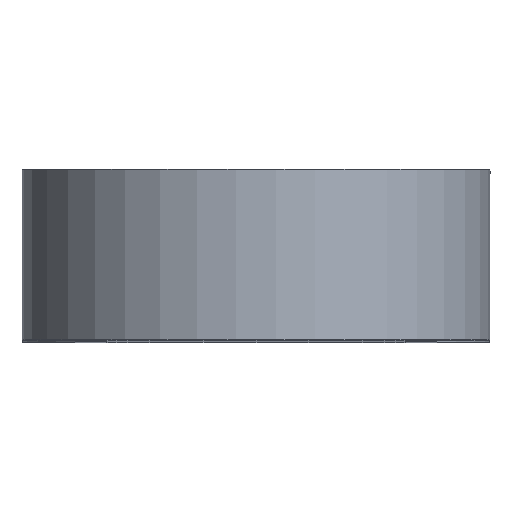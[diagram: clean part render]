
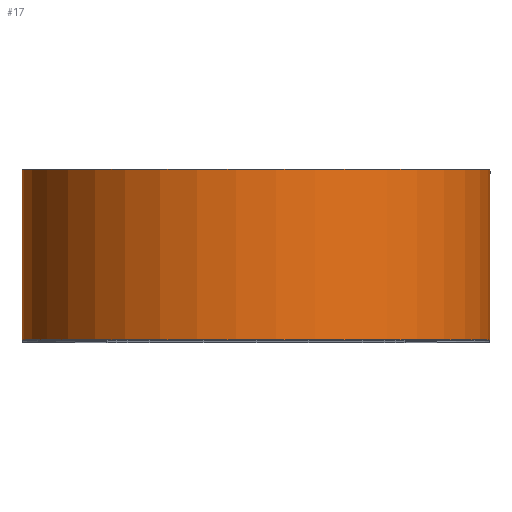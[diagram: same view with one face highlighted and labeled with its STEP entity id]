
A CAD part, top view. The second image highlights one B-rep face of the part: STEP entity #17.
In plain terms, the highlighted cylindrical face has radius 5.5 mm (diameter 11 mm), a partial arc.
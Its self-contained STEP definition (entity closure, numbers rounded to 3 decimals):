
#17 = ADVANCED_FACE('',(#18),#33,.T.);
#18 = FACE_BOUND('',#19,.F.);
#19 = EDGE_LOOP('',(#20,#56,#82,#115));
#20 = ORIENTED_EDGE('',*,*,#21,.F.);
#21 = EDGE_CURVE('',#22,#24,#26,.T.);
#22 = VERTEX_POINT('',#23);
#23 = CARTESIAN_POINT('',(-3.5,-9.,-4.243));
#24 = VERTEX_POINT('',#25);
#25 = CARTESIAN_POINT('',(3.5,-9.,-4.243));
#26 = SURFACE_CURVE('',#27,(#32,#44),.PCURVE_S1.);
#27 = CIRCLE('',#28,5.5);
#28 = AXIS2_PLACEMENT_3D('',#29,#30,#31);
#29 = CARTESIAN_POINT('',(0.,-9.,0.));
#30 = DIRECTION('',(0.,1.,0.));
#31 = DIRECTION('',(-0.636,0.,-0.771));
#32 = PCURVE('',#33,#38);
#33 = CYLINDRICAL_SURFACE('',#34,5.5);
#34 = AXIS2_PLACEMENT_3D('',#35,#36,#37);
#35 = CARTESIAN_POINT('',(0.,-9.,0.));
#36 = DIRECTION('',(0.,-1.,-0.));
#37 = DIRECTION('',(1.,0.,0.));
#38 = DEFINITIONAL_REPRESENTATION('',(#39),#43);
#39 = LINE('',#40,#41);
#40 = CARTESIAN_POINT('',(-2.261,0.));
#41 = VECTOR('',#42,1.);
#42 = DIRECTION('',(-1.,0.));
#43 = ( GEOMETRIC_REPRESENTATION_CONTEXT(2) 
PARAMETRIC_REPRESENTATION_CONTEXT() REPRESENTATION_CONTEXT('2D SPACE',''
  ) );
#44 = PCURVE('',#45,#50);
#45 = PLANE('',#46);
#46 = AXIS2_PLACEMENT_3D('',#47,#48,#49);
#47 = CARTESIAN_POINT('',(0.,-9.,0.));
#48 = DIRECTION('',(0.,1.,0.));
#49 = DIRECTION('',(0.,-0.,1.));
#50 = DEFINITIONAL_REPRESENTATION('',(#51),#55);
#51 = CIRCLE('',#52,5.5);
#52 = AXIS2_PLACEMENT_2D('',#53,#54);
#53 = CARTESIAN_POINT('',(0.,0.));
#54 = DIRECTION('',(-0.771,-0.636));
#55 = ( GEOMETRIC_REPRESENTATION_CONTEXT(2) 
PARAMETRIC_REPRESENTATION_CONTEXT() REPRESENTATION_CONTEXT('2D SPACE',''
  ) );
#56 = ORIENTED_EDGE('',*,*,#57,.F.);
#57 = EDGE_CURVE('',#58,#22,#60,.T.);
#58 = VERTEX_POINT('',#59);
#59 = CARTESIAN_POINT('',(-3.5,-5.,-4.243));
#60 = SURFACE_CURVE('',#61,(#65,#71),.PCURVE_S1.);
#61 = LINE('',#62,#63);
#62 = CARTESIAN_POINT('',(-3.5,-9.,-4.243));
#63 = VECTOR('',#64,1.);
#64 = DIRECTION('',(0.,-1.,-0.));
#65 = PCURVE('',#33,#66);
#66 = DEFINITIONAL_REPRESENTATION('',(#67),#70);
#67 = B_SPLINE_CURVE_WITH_KNOTS('',1,(#68,#69),.UNSPECIFIED.,.F.,.F.,(2,
    2),(-4.,0.),.PIECEWISE_BEZIER_KNOTS.);
#68 = CARTESIAN_POINT('',(-2.261,-4.));
#69 = CARTESIAN_POINT('',(-2.261,0.));
#70 = ( GEOMETRIC_REPRESENTATION_CONTEXT(2) 
PARAMETRIC_REPRESENTATION_CONTEXT() REPRESENTATION_CONTEXT('2D SPACE',''
  ) );
#71 = PCURVE('',#72,#77);
#72 = PLANE('',#73);
#73 = AXIS2_PLACEMENT_3D('',#74,#75,#76);
#74 = CARTESIAN_POINT('',(-3.5,-9.,-30.));
#75 = DIRECTION('',(1.,0.,0.));
#76 = DIRECTION('',(0.,0.,1.));
#77 = DEFINITIONAL_REPRESENTATION('',(#78),#81);
#78 = B_SPLINE_CURVE_WITH_KNOTS('',1,(#79,#80),.UNSPECIFIED.,.F.,.F.,(2,
    2),(-4.,0.),.PIECEWISE_BEZIER_KNOTS.);
#79 = CARTESIAN_POINT('',(25.757,-4.));
#80 = CARTESIAN_POINT('',(25.757,0.));
#81 = ( GEOMETRIC_REPRESENTATION_CONTEXT(2) 
PARAMETRIC_REPRESENTATION_CONTEXT() REPRESENTATION_CONTEXT('2D SPACE',''
  ) );
#82 = ORIENTED_EDGE('',*,*,#83,.F.);
#83 = EDGE_CURVE('',#84,#58,#86,.T.);
#84 = VERTEX_POINT('',#85);
#85 = CARTESIAN_POINT('',(3.5,-5.,-4.243));
#86 = SURFACE_CURVE('',#87,(#92,#99),.PCURVE_S1.);
#87 = CIRCLE('',#88,5.5);
#88 = AXIS2_PLACEMENT_3D('',#89,#90,#91);
#89 = CARTESIAN_POINT('',(0.,-5.,0.));
#90 = DIRECTION('',(0.,-1.,0.));
#91 = DIRECTION('',(0.636,0.,-0.771));
#92 = PCURVE('',#33,#93);
#93 = DEFINITIONAL_REPRESENTATION('',(#94),#98);
#94 = LINE('',#95,#96);
#95 = CARTESIAN_POINT('',(-7.164,-4.));
#96 = VECTOR('',#97,1.);
#97 = DIRECTION('',(1.,-0.));
#98 = ( GEOMETRIC_REPRESENTATION_CONTEXT(2) 
PARAMETRIC_REPRESENTATION_CONTEXT() REPRESENTATION_CONTEXT('2D SPACE',''
  ) );
#99 = PCURVE('',#100,#105);
#100 = PLANE('',#101);
#101 = AXIS2_PLACEMENT_3D('',#102,#103,#104);
#102 = CARTESIAN_POINT('',(0.,-5.,0.));
#103 = DIRECTION('',(0.,1.,0.));
#104 = DIRECTION('',(0.,-0.,1.));
#105 = DEFINITIONAL_REPRESENTATION('',(#106),#114);
#106 = ( BOUNDED_CURVE() B_SPLINE_CURVE(2,(#107,#108,#109,#110,#111,#112
,#113),.UNSPECIFIED.,.T.,.F.) B_SPLINE_CURVE_WITH_KNOTS((1,2,2,2,2,1),(
    -2.094,0.,2.094,4.189,6.283,
8.378),.UNSPECIFIED.) CURVE() GEOMETRIC_REPRESENTATION_ITEM() 
RATIONAL_B_SPLINE_CURVE((1.,0.5,1.,0.5,1.,0.5,1.)) REPRESENTATION_ITEM(
  '') );
#107 = CARTESIAN_POINT('',(-4.243,3.5));
#108 = CARTESIAN_POINT('',(1.82,10.848));
#109 = CARTESIAN_POINT('',(5.152,1.924));
#110 = CARTESIAN_POINT('',(8.485,-7.));
#111 = CARTESIAN_POINT('',(-0.91,-5.424));
#112 = CARTESIAN_POINT('',(-10.305,-3.848));
#113 = CARTESIAN_POINT('',(-4.243,3.5));
#114 = ( GEOMETRIC_REPRESENTATION_CONTEXT(2) 
PARAMETRIC_REPRESENTATION_CONTEXT() REPRESENTATION_CONTEXT('2D SPACE',''
  ) );
#115 = ORIENTED_EDGE('',*,*,#116,.T.);
#116 = EDGE_CURVE('',#84,#24,#117,.T.);
#117 = SURFACE_CURVE('',#118,(#122,#128),.PCURVE_S1.);
#118 = LINE('',#119,#120);
#119 = CARTESIAN_POINT('',(3.5,-9.,-4.243));
#120 = VECTOR('',#121,1.);
#121 = DIRECTION('',(0.,-1.,-0.));
#122 = PCURVE('',#33,#123);
#123 = DEFINITIONAL_REPRESENTATION('',(#124),#127);
#124 = B_SPLINE_CURVE_WITH_KNOTS('',1,(#125,#126),.UNSPECIFIED.,.F.,.F.,
  (2,2),(-4.,0.),.PIECEWISE_BEZIER_KNOTS.);
#125 = CARTESIAN_POINT('',(-7.164,-4.));
#126 = CARTESIAN_POINT('',(-7.164,0.));
#127 = ( GEOMETRIC_REPRESENTATION_CONTEXT(2) 
PARAMETRIC_REPRESENTATION_CONTEXT() REPRESENTATION_CONTEXT('2D SPACE',''
  ) );
#128 = PCURVE('',#129,#134);
#129 = PLANE('',#130);
#130 = AXIS2_PLACEMENT_3D('',#131,#132,#133);
#131 = CARTESIAN_POINT('',(3.5,-9.,-30.));
#132 = DIRECTION('',(1.,0.,0.));
#133 = DIRECTION('',(0.,0.,1.));
#134 = DEFINITIONAL_REPRESENTATION('',(#135),#138);
#135 = B_SPLINE_CURVE_WITH_KNOTS('',1,(#136,#137),.UNSPECIFIED.,.F.,.F.,
  (2,2),(-4.,0.),.PIECEWISE_BEZIER_KNOTS.);
#136 = CARTESIAN_POINT('',(25.757,-4.));
#137 = CARTESIAN_POINT('',(25.757,0.));
#138 = ( GEOMETRIC_REPRESENTATION_CONTEXT(2) 
PARAMETRIC_REPRESENTATION_CONTEXT() REPRESENTATION_CONTEXT('2D SPACE',''
  ) );
